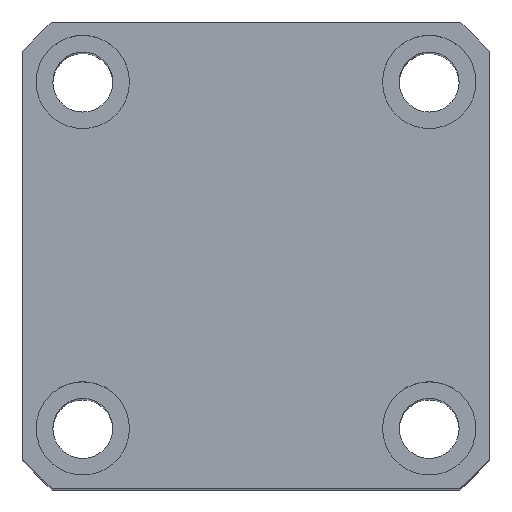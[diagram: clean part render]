
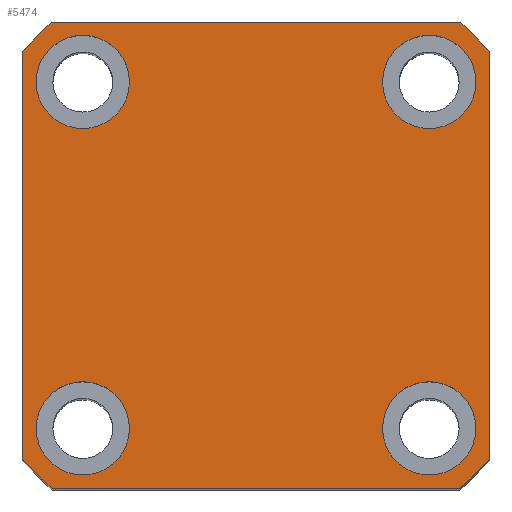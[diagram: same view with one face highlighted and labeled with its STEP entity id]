
A CAD part, top view. The second image highlights one B-rep face of the part: STEP entity #5474.
In plain terms, the highlighted planar face has unit normal (0, 0, 1).
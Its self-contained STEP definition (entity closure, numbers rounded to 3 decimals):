
#10 = CIRCLE ( 'NONE', #1681, 7. ) ;
#76 = CARTESIAN_POINT ( 'NONE',  ( -30.615, -35., 145. ) ) ;
#362 = DIRECTION ( 'NONE',  ( 1., 0., 0. ) ) ;
#400 = EDGE_CURVE ( 'NONE', #7686, #3823, #2450, .T. ) ;
#406 = CARTESIAN_POINT ( 'NONE',  ( 35., 30.615, 145. ) ) ;
#407 = VERTEX_POINT ( 'NONE', #5416 ) ;
#433 = EDGE_LOOP ( 'NONE', ( #4380, #10028 ) ) ;
#459 = LINE ( 'NONE', #7028, #8911 ) ;
#480 = EDGE_CURVE ( 'NONE', #4257, #8610, #4026, .T. ) ;
#583 = CARTESIAN_POINT ( 'NONE',  ( 0., 0., 145. ) ) ;
#795 = CARTESIAN_POINT ( 'NONE',  ( 33., 26., 145. ) ) ;
#882 = ORIENTED_EDGE ( 'NONE', *, *, #4419, .T. ) ;
#998 = VERTEX_POINT ( 'NONE', #4783 ) ;
#1282 = VERTEX_POINT ( 'NONE', #8333 ) ;
#1360 = DIRECTION ( 'NONE',  ( 1., 0., 0. ) ) ;
#1365 = DIRECTION ( 'NONE',  ( 0., 0., 1. ) ) ;
#1438 = ORIENTED_EDGE ( 'NONE', *, *, #1658, .F. ) ;
#1468 = ORIENTED_EDGE ( 'NONE', *, *, #3280, .T. ) ;
#1522 = VERTEX_POINT ( 'NONE', #9661 ) ;
#1658 = EDGE_CURVE ( 'NONE', #8610, #4257, #10, .T. ) ;
#1681 = AXIS2_PLACEMENT_3D ( 'NONE', #5837, #6041, #7087 ) ;
#1733 = CARTESIAN_POINT ( 'NONE',  ( -35., -35., 145. ) ) ;
#1797 = EDGE_LOOP ( 'NONE', ( #1438, #2514 ) ) ;
#1800 = DIRECTION ( 'NONE',  ( 1., 0., 0. ) ) ;
#1828 = CARTESIAN_POINT ( 'NONE',  ( -35., -30.615, 145. ) ) ;
#1845 = DIRECTION ( 'NONE',  ( 0., 0., 1. ) ) ;
#1901 = DIRECTION ( 'NONE',  ( 0., 0., 1. ) ) ;
#1906 = FACE_BOUND ( 'NONE', #433, .T. ) ;
#1912 = CARTESIAN_POINT ( 'NONE',  ( 0., 0., 145. ) ) ;
#2141 = DIRECTION ( 'NONE',  ( 0., 0., 1. ) ) ;
#2236 = AXIS2_PLACEMENT_3D ( 'NONE', #5959, #1365, #6747 ) ;
#2281 = VECTOR ( 'NONE', #2680, 1000. ) ;
#2368 = EDGE_CURVE ( 'NONE', #9996, #998, #9540, .T. ) ;
#2450 = CIRCLE ( 'NONE', #6119, 46.5 ) ;
#2465 = ORIENTED_EDGE ( 'NONE', *, *, #4758, .T. ) ;
#2514 = ORIENTED_EDGE ( 'NONE', *, *, #480, .F. ) ;
#2680 = DIRECTION ( 'NONE',  ( 0., -1., 0. ) ) ;
#2691 = EDGE_CURVE ( 'NONE', #1282, #3842, #7847, .T. ) ;
#2911 = AXIS2_PLACEMENT_3D ( 'NONE', #9218, #4579, #10002 ) ;
#2957 = CARTESIAN_POINT ( 'NONE',  ( 19., 26., 145. ) ) ;
#2997 = EDGE_CURVE ( 'NONE', #407, #1522, #9425, .T. ) ;
#3090 = EDGE_CURVE ( 'NONE', #1522, #8408, #3509, .T. ) ;
#3179 = CARTESIAN_POINT ( 'NONE',  ( -19., 26., 145. ) ) ;
#3280 = EDGE_CURVE ( 'NONE', #3823, #7675, #6614, .T. ) ;
#3398 = CARTESIAN_POINT ( 'NONE',  ( -35., 35., 145. ) ) ;
#3413 = CARTESIAN_POINT ( 'NONE',  ( 0., 0., 145. ) ) ;
#3509 = CIRCLE ( 'NONE', #4189, 46.5 ) ;
#3551 = CARTESIAN_POINT ( 'NONE',  ( -26., 26., 145. ) ) ;
#3705 = VERTEX_POINT ( 'NONE', #795 ) ;
#3722 = CIRCLE ( 'NONE', #5363, 7. ) ;
#3734 = CIRCLE ( 'NONE', #2911, 7. ) ;
#3823 = VERTEX_POINT ( 'NONE', #76 ) ;
#3842 = VERTEX_POINT ( 'NONE', #3179 ) ;
#3891 = CARTESIAN_POINT ( 'NONE',  ( 26., 26., 145. ) ) ;
#3966 = FACE_BOUND ( 'NONE', #6284, .T. ) ;
#4026 = CIRCLE ( 'NONE', #8723, 7. ) ;
#4178 = VERTEX_POINT ( 'NONE', #406 ) ;
#4184 = CARTESIAN_POINT ( 'NONE',  ( -35., 35., 145. ) ) ;
#4189 = AXIS2_PLACEMENT_3D ( 'NONE', #1912, #1845, #1800 ) ;
#4257 = VERTEX_POINT ( 'NONE', #5871 ) ;
#4304 = DIRECTION ( 'NONE',  ( 1., 0., 0. ) ) ;
#4315 = LINE ( 'NONE', #4184, #2281 ) ;
#4380 = ORIENTED_EDGE ( 'NONE', *, *, #5496, .F. ) ;
#4419 = EDGE_CURVE ( 'NONE', #4178, #407, #9165, .T. ) ;
#4468 = DIRECTION ( 'NONE',  ( 0., 0., 1. ) ) ;
#4567 = DIRECTION ( 'NONE',  ( -1., 0., 0. ) ) ;
#4579 = DIRECTION ( 'NONE',  ( 0., 0., 1. ) ) ;
#4669 = DIRECTION ( 'NONE',  ( 1., 0., 0. ) ) ;
#4745 = DIRECTION ( 'NONE',  ( 1., 0., 0. ) ) ;
#4758 = EDGE_CURVE ( 'NONE', #4958, #4178, #459, .T. ) ;
#4783 = CARTESIAN_POINT ( 'NONE',  ( -19., -26., 145. ) ) ;
#4806 = DIRECTION ( 'NONE',  ( 0., 0., 1. ) ) ;
#4840 = CARTESIAN_POINT ( 'NONE',  ( 0., 0., 145. ) ) ;
#4843 = ORIENTED_EDGE ( 'NONE', *, *, #8605, .T. ) ;
#4958 = VERTEX_POINT ( 'NONE', #8341 ) ;
#4984 = DIRECTION ( 'NONE',  ( 0., 0., 1. ) ) ;
#5057 = CIRCLE ( 'NONE', #2236, 7. ) ;
#5190 = DIRECTION ( 'NONE',  ( 1., 0., 0. ) ) ;
#5291 = ORIENTED_EDGE ( 'NONE', *, *, #7280, .F. ) ;
#5294 = VECTOR ( 'NONE', #4567, 1000. ) ;
#5363 = AXIS2_PLACEMENT_3D ( 'NONE', #3551, #8938, #4304 ) ;
#5416 = CARTESIAN_POINT ( 'NONE',  ( 30.615, 35., 145. ) ) ;
#5474 = ADVANCED_FACE ( 'NONE', ( #6478, #5985, #3966, #1906, #9891 ), #9618, .T. ) ;
#5496 = EDGE_CURVE ( 'NONE', #3842, #1282, #3722, .T. ) ;
#5570 = DIRECTION ( 'NONE',  ( 1., 0., 0. ) ) ;
#5596 = CARTESIAN_POINT ( 'NONE',  ( -35., 30.615, 145. ) ) ;
#5837 = CARTESIAN_POINT ( 'NONE',  ( 26., -26., 145. ) ) ;
#5857 = AXIS2_PLACEMENT_3D ( 'NONE', #3413, #4984, #362 ) ;
#5868 = ORIENTED_EDGE ( 'NONE', *, *, #8951, .F. ) ;
#5871 = CARTESIAN_POINT ( 'NONE',  ( 19., -26., 145. ) ) ;
#5953 = DIRECTION ( 'NONE',  ( 0., 0., 1. ) ) ;
#5959 = CARTESIAN_POINT ( 'NONE',  ( 26., 26., 145. ) ) ;
#5985 = FACE_BOUND ( 'NONE', #1797, .T. ) ;
#6030 = DIRECTION ( 'NONE',  ( 0., 1., 0. ) ) ;
#6041 = DIRECTION ( 'NONE',  ( 0., 0., 1. ) ) ;
#6119 = AXIS2_PLACEMENT_3D ( 'NONE', #4840, #4806, #4745 ) ;
#6281 = EDGE_CURVE ( 'NONE', #998, #9996, #3734, .T. ) ;
#6284 = EDGE_LOOP ( 'NONE', ( #5868, #5291 ) ) ;
#6478 = FACE_BOUND ( 'NONE', #7510, .T. ) ;
#6566 = ORIENTED_EDGE ( 'NONE', *, *, #6281, .F. ) ;
#6614 = LINE ( 'NONE', #1733, #8448 ) ;
#6639 = AXIS2_PLACEMENT_3D ( 'NONE', #9777, #1901, #5190 ) ;
#6747 = DIRECTION ( 'NONE',  ( 1., 0., 0. ) ) ;
#6957 = VERTEX_POINT ( 'NONE', #2957 ) ;
#7019 = AXIS2_PLACEMENT_3D ( 'NONE', #583, #5953, #1360 ) ;
#7028 = CARTESIAN_POINT ( 'NONE',  ( 35., 35., 145. ) ) ;
#7087 = DIRECTION ( 'NONE',  ( 1., 0., 0. ) ) ;
#7127 = DIRECTION ( 'NONE',  ( 1., 0., 0. ) ) ;
#7280 = EDGE_CURVE ( 'NONE', #6957, #3705, #5057, .T. ) ;
#7298 = AXIS2_PLACEMENT_3D ( 'NONE', #9098, #4468, #9893 ) ;
#7320 = ORIENTED_EDGE ( 'NONE', *, *, #3090, .T. ) ;
#7510 = EDGE_LOOP ( 'NONE', ( #6566, #8184 ) ) ;
#7675 = VERTEX_POINT ( 'NONE', #8753 ) ;
#7686 = VERTEX_POINT ( 'NONE', #1828 ) ;
#7716 = CIRCLE ( 'NONE', #9612, 7. ) ;
#7818 = ORIENTED_EDGE ( 'NONE', *, *, #2997, .T. ) ;
#7847 = CIRCLE ( 'NONE', #8005, 7. ) ;
#8005 = AXIS2_PLACEMENT_3D ( 'NONE', #8827, #8798, #8766 ) ;
#8184 = ORIENTED_EDGE ( 'NONE', *, *, #2368, .F. ) ;
#8295 = CARTESIAN_POINT ( 'NONE',  ( 26., -26., 145. ) ) ;
#8333 = CARTESIAN_POINT ( 'NONE',  ( -33., 26., 145. ) ) ;
#8341 = CARTESIAN_POINT ( 'NONE',  ( 35., -30.615, 145. ) ) ;
#8408 = VERTEX_POINT ( 'NONE', #5596 ) ;
#8448 = VECTOR ( 'NONE', #7127, 1000. ) ;
#8471 = EDGE_LOOP ( 'NONE', ( #2465, #882, #7818, #7320, #4843, #9673, #1468, #9445 ) ) ;
#8605 = EDGE_CURVE ( 'NONE', #8408, #7686, #4315, .T. ) ;
#8610 = VERTEX_POINT ( 'NONE', #9669 ) ;
#8723 = AXIS2_PLACEMENT_3D ( 'NONE', #8295, #2141, #5570 ) ;
#8753 = CARTESIAN_POINT ( 'NONE',  ( 30.615, -35., 145. ) ) ;
#8761 = EDGE_CURVE ( 'NONE', #7675, #4958, #9524, .T. ) ;
#8766 = DIRECTION ( 'NONE',  ( 1., 0., 0. ) ) ;
#8798 = DIRECTION ( 'NONE',  ( 0., 0., 1. ) ) ;
#8827 = CARTESIAN_POINT ( 'NONE',  ( -26., 26., 145. ) ) ;
#8911 = VECTOR ( 'NONE', #6030, 1000. ) ;
#8938 = DIRECTION ( 'NONE',  ( 0., 0., 1. ) ) ;
#8951 = EDGE_CURVE ( 'NONE', #3705, #6957, #7716, .T. ) ;
#9098 = CARTESIAN_POINT ( 'NONE',  ( 0., 0., 145. ) ) ;
#9165 = CIRCLE ( 'NONE', #7298, 46.5 ) ;
#9218 = CARTESIAN_POINT ( 'NONE',  ( -26., -26., 145. ) ) ;
#9304 = DIRECTION ( 'NONE',  ( 0., 0., 1. ) ) ;
#9425 = LINE ( 'NONE', #3398, #5294 ) ;
#9445 = ORIENTED_EDGE ( 'NONE', *, *, #8761, .T. ) ;
#9524 = CIRCLE ( 'NONE', #7019, 46.5 ) ;
#9540 = CIRCLE ( 'NONE', #6639, 7. ) ;
#9612 = AXIS2_PLACEMENT_3D ( 'NONE', #3891, #9304, #4669 ) ;
#9618 = PLANE ( 'NONE',  #5857 ) ;
#9661 = CARTESIAN_POINT ( 'NONE',  ( -30.615, 35., 145. ) ) ;
#9669 = CARTESIAN_POINT ( 'NONE',  ( 33., -26., 145. ) ) ;
#9673 = ORIENTED_EDGE ( 'NONE', *, *, #400, .T. ) ;
#9764 = CARTESIAN_POINT ( 'NONE',  ( -33., -26., 145. ) ) ;
#9777 = CARTESIAN_POINT ( 'NONE',  ( -26., -26., 145. ) ) ;
#9891 = FACE_OUTER_BOUND ( 'NONE', #8471, .T. ) ;
#9893 = DIRECTION ( 'NONE',  ( 1., 0., 0. ) ) ;
#9996 = VERTEX_POINT ( 'NONE', #9764 ) ;
#10002 = DIRECTION ( 'NONE',  ( 1., 0., 0. ) ) ;
#10028 = ORIENTED_EDGE ( 'NONE', *, *, #2691, .F. ) ;
